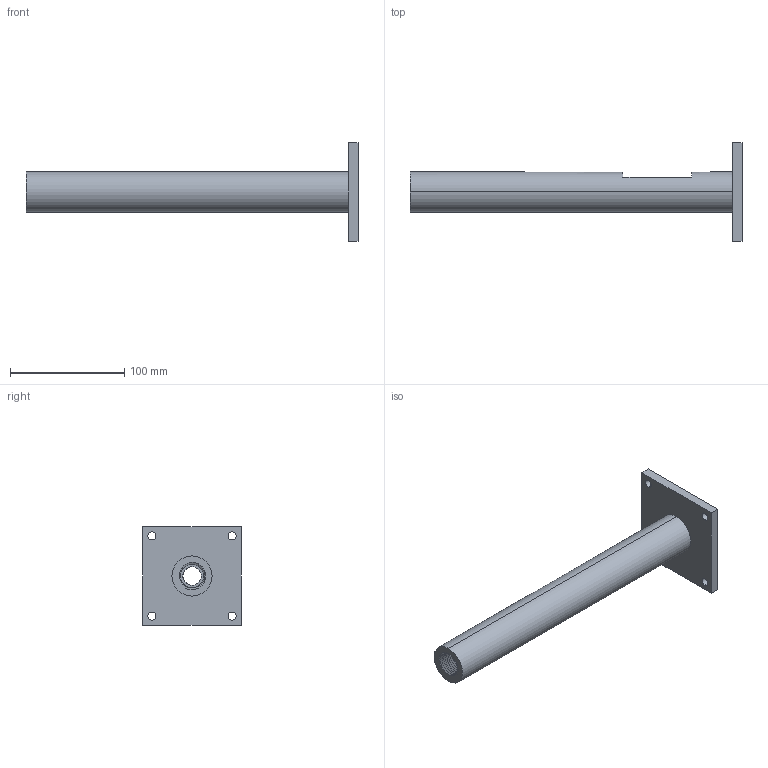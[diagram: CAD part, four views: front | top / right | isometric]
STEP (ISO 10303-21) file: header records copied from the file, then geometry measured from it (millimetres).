
FILE_DESCRIPTION (( 'STEP AP203' ), '1' );
FILE_NAME ('套筒2 - 副本.STEP', '2021-03-30T16:59:54', ( '微软用户' ), ( '微软中国' ), 'SwSTEP 2.0', 'SolidWorks 2013', '' );
FILE_SCHEMA (( 'CONFIG_CONTROL_DESIGN' ));
Length unit declared in the file: millimetre
Products named in the file (1): 杶芠2 - 萵掛
Bounding box: 290 x 86 x 86 mm (x, y, z)
Volume: 258662.5 mm3; surface area: 64831.5 mm2
Topology: 1 solids, 1 shells, 44 faces, 114 edges, 74 vertices
Faces by surface type: cylinder 23, plane 13, cone 6, bspline 2
Entity records: 3155 total; most frequent: CARTESIAN_POINT 1973, ORIENTED_EDGE 228, DIRECTION 222, EDGE_CURVE 114, AXIS2_PLACEMENT_3D 87, VERTEX_POINT 74, EDGE_LOOP 66, VECTOR 48
